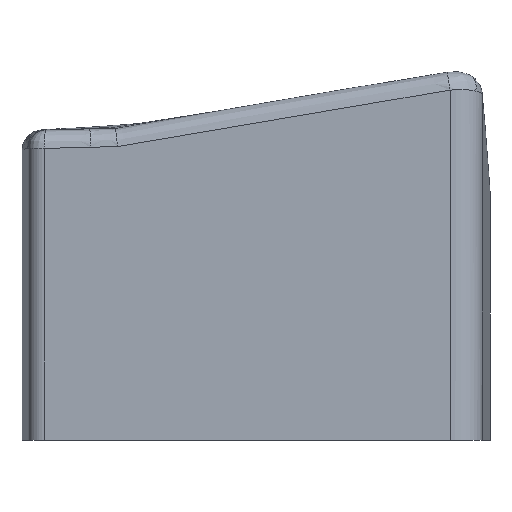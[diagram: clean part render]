
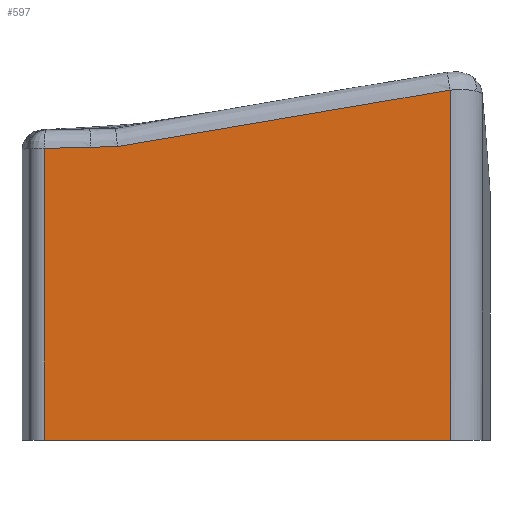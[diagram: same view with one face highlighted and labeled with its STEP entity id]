
A CAD part, front view. The second image highlights one B-rep face of the part: STEP entity #597.
In plain terms, the highlighted planar face has unit normal (0, -1, 0).
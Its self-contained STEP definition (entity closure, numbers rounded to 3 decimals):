
#497=AXIS2_PLACEMENT_3D('Plane Axis2P3D',#494,#495,#496) ;
#167=CARTESIAN_POINT('Vertex',(120.837,-30.,-80.)) ;
#170=CARTESIAN_POINT('Line Origine',(70.378,-30.,-80.)) ;
#174=CARTESIAN_POINT('Vertex',(19.92,-30.,-80.)) ;
#494=CARTESIAN_POINT('Axis2P3D Location',(19.92,-30.,0.)) ;
#499=CARTESIAN_POINT('Line Origine',(19.92,-30.,-43.704)) ;
#503=CARTESIAN_POINT('Vertex',(19.92,-30.,-7.407)) ;
#506=CARTESIAN_POINT('Line Origine',(120.837,-30.,-36.449)) ;
#510=CARTESIAN_POINT('Vertex',(120.837,-30.,7.101)) ;
#514=CARTESIAN_POINT('Control Point',(38.094,-30.,-6.952)) ;
#515=CARTESIAN_POINT('Control Point',(38.44,-30.,-6.89)) ;
#516=CARTESIAN_POINT('Control Point',(38.784,-30.,-6.83)) ;
#517=CARTESIAN_POINT('Control Point',(39.131,-30.,-6.768)) ;
#518=CARTESIAN_POINT('Control Point',(42.541,-30.,-6.166)) ;
#519=CARTESIAN_POINT('Control Point',(45.97,-30.,-5.562)) ;
#520=CARTESIAN_POINT('Control Point',(49.053,-30.,-5.022)) ;
#521=CARTESIAN_POINT('Control Point',(54.521,-30.,-4.068)) ;
#522=CARTESIAN_POINT('Control Point',(59.944,-30.,-3.129)) ;
#523=CARTESIAN_POINT('Control Point',(62.378,-30.,-2.709)) ;
#524=CARTESIAN_POINT('Control Point',(66.406,-30.,-2.016)) ;
#525=CARTESIAN_POINT('Control Point',(70.497,-30.,-1.316)) ;
#526=CARTESIAN_POINT('Control Point',(72.238,-30.,-1.018)) ;
#527=CARTESIAN_POINT('Control Point',(77.456,-30.,-0.129)) ;
#528=CARTESIAN_POINT('Control Point',(82.672,-30.,0.754)) ;
#529=CARTESIAN_POINT('Control Point',(86.213,-30.,1.352)) ;
#530=CARTESIAN_POINT('Control Point',(90.254,-30.,2.031)) ;
#531=CARTESIAN_POINT('Control Point',(94.313,-30.,2.71)) ;
#532=CARTESIAN_POINT('Control Point',(94.857,-30.,2.801)) ;
#533=CARTESIAN_POINT('Control Point',(95.957,-30.,2.985)) ;
#534=CARTESIAN_POINT('Control Point',(97.062,-30.,3.169)) ;
#535=CARTESIAN_POINT('Control Point',(97.568,-30.,3.254)) ;
#536=CARTESIAN_POINT('Control Point',(100.566,-30.,3.753)) ;
#537=CARTESIAN_POINT('Control Point',(103.586,-30.,4.256)) ;
#538=CARTESIAN_POINT('Control Point',(106.055,-30.,4.665)) ;
#539=CARTESIAN_POINT('Control Point',(109.279,-30.,5.198)) ;
#540=CARTESIAN_POINT('Control Point',(112.502,-30.,5.73)) ;
#541=CARTESIAN_POINT('Control Point',(113.305,-30.,5.863)) ;
#542=CARTESIAN_POINT('Control Point',(114.268,-30.,6.021)) ;
#543=CARTESIAN_POINT('Control Point',(115.235,-30.,6.18)) ;
#544=CARTESIAN_POINT('Control Point',(115.378,-30.,6.204)) ;
#545=CARTESIAN_POINT('Control Point',(115.851,-30.,6.282)) ;
#546=CARTESIAN_POINT('Control Point',(116.336,-30.,6.362)) ;
#547=CARTESIAN_POINT('Control Point',(116.664,-30.,6.416)) ;
#548=CARTESIAN_POINT('Control Point',(117.662,-30.,6.58)) ;
#549=CARTESIAN_POINT('Control Point',(118.705,-30.,6.751)) ;
#550=CARTESIAN_POINT('Control Point',(119.429,-30.,6.87)) ;
#551=CARTESIAN_POINT('Control Point',(120.136,-30.,6.986)) ;
#552=CARTESIAN_POINT('Control Point',(120.837,-30.,7.101)) ;
#553=CARTESIAN_POINT('Vertex',(38.094,-30.,-6.952)) ;
#557=CARTESIAN_POINT('Control Point',(31.363,-30.,-7.122)) ;
#558=CARTESIAN_POINT('Control Point',(32.604,-30.,-7.091)) ;
#559=CARTESIAN_POINT('Control Point',(33.853,-30.,-7.059)) ;
#560=CARTESIAN_POINT('Control Point',(35.095,-30.,-7.028)) ;
#561=CARTESIAN_POINT('Control Point',(36.433,-30.,-6.994)) ;
#562=CARTESIAN_POINT('Control Point',(37.781,-30.,-6.96)) ;
#563=CARTESIAN_POINT('Control Point',(37.883,-30.,-6.957)) ;
#564=CARTESIAN_POINT('Control Point',(37.988,-30.,-6.954)) ;
#565=CARTESIAN_POINT('Control Point',(38.094,-30.,-6.952)) ;
#566=CARTESIAN_POINT('Vertex',(31.363,-30.,-7.122)) ;
#570=CARTESIAN_POINT('Control Point',(19.92,-30.,-7.407)) ;
#571=CARTESIAN_POINT('Control Point',(19.954,-30.,-7.407)) ;
#572=CARTESIAN_POINT('Control Point',(19.988,-30.,-7.406)) ;
#573=CARTESIAN_POINT('Control Point',(20.022,-30.,-7.405)) ;
#574=CARTESIAN_POINT('Control Point',(20.63,-30.,-7.39)) ;
#575=CARTESIAN_POINT('Control Point',(21.238,-30.,-7.375)) ;
#576=CARTESIAN_POINT('Control Point',(21.811,-30.,-7.361)) ;
#577=CARTESIAN_POINT('Control Point',(22.952,-30.,-7.332)) ;
#578=CARTESIAN_POINT('Control Point',(24.095,-30.,-7.304)) ;
#579=CARTESIAN_POINT('Control Point',(24.701,-30.,-7.289)) ;
#580=CARTESIAN_POINT('Control Point',(26.12,-30.,-7.254)) ;
#581=CARTESIAN_POINT('Control Point',(27.539,-30.,-7.218)) ;
#582=CARTESIAN_POINT('Control Point',(28.387,-30.,-7.197)) ;
#583=CARTESIAN_POINT('Control Point',(29.504,-30.,-7.169)) ;
#584=CARTESIAN_POINT('Control Point',(30.622,-30.,-7.141)) ;
#585=CARTESIAN_POINT('Control Point',(30.869,-30.,-7.135)) ;
#586=CARTESIAN_POINT('Control Point',(31.113,-30.,-7.128)) ;
#587=CARTESIAN_POINT('Control Point',(31.363,-30.,-7.122)) ;
#171=DIRECTION('Vector Direction',(1.,0.,0.)) ;
#495=DIRECTION('Axis2P3D Direction',(0.,-1.,0.)) ;
#496=DIRECTION('Axis2P3D XDirection',(1.,0.,0.)) ;
#500=DIRECTION('Vector Direction',(0.,0.,1.)) ;
#507=DIRECTION('Vector Direction',(0.,0.,1.)) ;
#172=VECTOR('Line Direction',#171,1.) ;
#501=VECTOR('Line Direction',#500,1.) ;
#508=VECTOR('Line Direction',#507,1.) ;
#590=ORIENTED_EDGE('',*,*,#505,.F.) ;
#591=ORIENTED_EDGE('',*,*,#176,.T.) ;
#592=ORIENTED_EDGE('',*,*,#512,.T.) ;
#593=ORIENTED_EDGE('',*,*,#555,.T.) ;
#594=ORIENTED_EDGE('',*,*,#568,.T.) ;
#595=ORIENTED_EDGE('',*,*,#588,.T.) ;
#597=ADVANCED_FACE('27_12_2022',(#596),#498,.T.) ;
#513=B_SPLINE_CURVE_WITH_KNOTS('',5,(#514,#515,#516,#517,#518,#519,#520,#521,#522,#523,#524,#525,#526,#527,#528,#529,#530,#531,#532,#533,#534,#535,#536,#537,#538,#539,#540,#541,#542,#543,#544,#545,#546,#547,#548,#549,#550,#551,#552),.UNSPECIFIED.,.F.,.U.,(6,3,3,3,3,3,3,3,3,3,3,3,6),(56.476,59.132,81.477,99.405,111.371,137.313,141.325,145.413,163.202,169.099,170.253,172.517,177.02),.UNSPECIFIED.) ;
#556=B_SPLINE_CURVE_WITH_KNOTS('',5,(#557,#558,#559,#560,#561,#562,#563,#564,#565),.UNSPECIFIED.,.F.,.U.,(6,3,6),(5.518,14.701,15.436),.UNSPECIFIED.) ;
#569=B_SPLINE_CURVE_WITH_KNOTS('',5,(#570,#571,#572,#573,#574,#575,#576,#577,#578,#579,#580,#581,#582,#583,#584,#585,#586,#587),.UNSPECIFIED.,.F.,.U.,(6,3,3,3,3,6),(16.817,17.071,21.336,25.562,31.844,33.859),.UNSPECIFIED.) ;
#176=EDGE_CURVE('',#175,#168,#173,.T.) ;
#505=EDGE_CURVE('',#175,#504,#502,.T.) ;
#512=EDGE_CURVE('',#168,#511,#509,.T.) ;
#555=EDGE_CURVE('',#511,#554,#513,.F.) ;
#568=EDGE_CURVE('',#554,#567,#556,.F.) ;
#588=EDGE_CURVE('',#567,#504,#569,.F.) ;
#589=EDGE_LOOP('',(#590,#591,#592,#593,#594,#595)) ;
#596=FACE_OUTER_BOUND('',#589,.T.) ;
#173=LINE('Line',#170,#172) ;
#502=LINE('Line',#499,#501) ;
#509=LINE('Line',#506,#508) ;
#498=PLANE('',#497) ;
#168=VERTEX_POINT('',#167) ;
#175=VERTEX_POINT('',#174) ;
#504=VERTEX_POINT('',#503) ;
#511=VERTEX_POINT('',#510) ;
#554=VERTEX_POINT('',#553) ;
#567=VERTEX_POINT('',#566) ;
